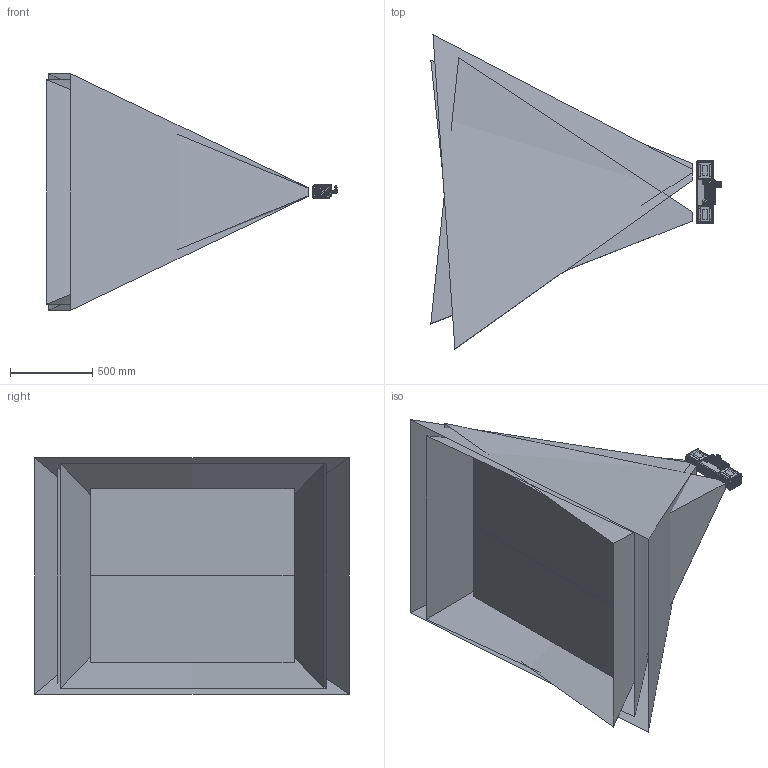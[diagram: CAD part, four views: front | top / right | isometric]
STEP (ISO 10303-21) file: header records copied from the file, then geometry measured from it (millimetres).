
FILE_DESCRIPTION((''),'2;1');
FILE_NAME('MV-DLS600U-07_ASM','2025-11-18T12:05:47',('guotianbo'),(''),'CREO PARAMETRIC BY PTC INC, 2020044','CREO PARAMETRIC BY PTC INC, 2020044','');
FILE_SCHEMA(('AUTOMOTIVE_DESIGN { 1 0 10303 214 1 1 1 1 }'));
Products named in the file (1): MV-DLS600U-07_ASM
Bounding box: 1768.86 x 1917.61 x 1442.43 mm (x, y, z)
Surface area: 20840174.6 mm2 (no closed solid volume)
Topology: 0 solids, 115 shells, 3043 faces, 9880 edges, 6827 vertices
Faces by surface type: plane 1569, cylinder 1069, cone 190, bspline 112, torus 60, extrusion 43
Entity records: 197318 total; most frequent: CARTESIAN_POINT 104508, ORIENTED_EDGE 17293, DIRECTION 16582, EDGE_CURVE 9859, VERTEX_POINT 6827, VECTOR 5562, LINE 5519, AXIS2_PLACEMENT_3D 5510
